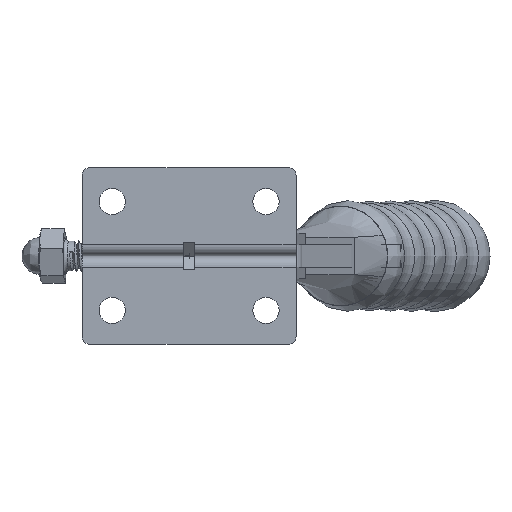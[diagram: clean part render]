
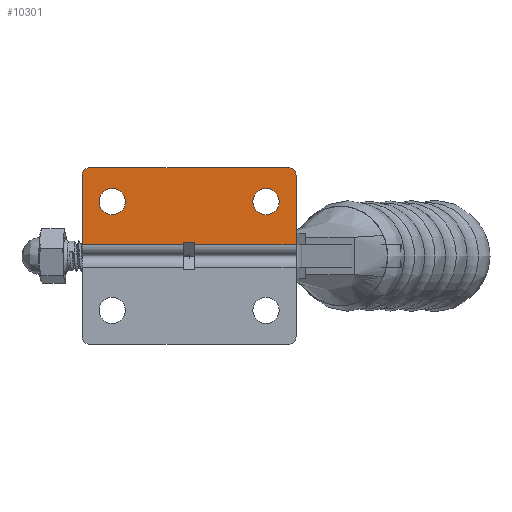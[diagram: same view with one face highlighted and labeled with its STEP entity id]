
A CAD part, front view. The second image highlights one B-rep face of the part: STEP entity #10301.
In plain terms, the highlighted planar face has unit normal (0, -1, 0).
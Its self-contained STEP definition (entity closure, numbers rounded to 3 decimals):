
#793=FACE_BOUND('',#1820,.T.);
#794=FACE_BOUND('',#1821,.T.);
#863=CIRCLE('',#11076,3.5);
#864=CIRCLE('',#11077,3.5);
#867=CIRCLE('',#11081,3.5);
#868=CIRCLE('',#11082,3.5);
#879=CIRCLE('',#11097,2.);
#880=CIRCLE('',#11098,2.);
#1244=FACE_OUTER_BOUND('',#1819,.T.);
#1819=EDGE_LOOP('',(#6900,#6901,#6902,#6903,#6904,#6905,#6906,#6907,#6908,
#6909));
#1820=EDGE_LOOP('',(#6910,#6911));
#1821=EDGE_LOOP('',(#6912,#6913));
#2468=LINE('',#14015,#3333);
#2469=LINE('',#14017,#3334);
#2470=LINE('',#14019,#3335);
#2471=LINE('',#14021,#3336);
#2472=LINE('',#14023,#3337);
#2473=LINE('',#14025,#3338);
#2474=LINE('',#14029,#3339);
#2475=LINE('',#14032,#3340);
#3333=VECTOR('',#11816,1000.);
#3334=VECTOR('',#11817,1000.);
#3335=VECTOR('',#11818,1000.);
#3336=VECTOR('',#11819,1000.);
#3337=VECTOR('',#11820,1000.);
#3338=VECTOR('',#11821,1000.);
#3339=VECTOR('',#11824,1000.);
#3340=VECTOR('',#11827,1000.);
#4193=VERTEX_POINT('',#13968);
#4194=VERTEX_POINT('',#13970);
#4197=VERTEX_POINT('',#13978);
#4198=VERTEX_POINT('',#13980);
#4211=VERTEX_POINT('',#14013);
#4212=VERTEX_POINT('',#14014);
#4213=VERTEX_POINT('',#14016);
#4214=VERTEX_POINT('',#14018);
#4215=VERTEX_POINT('',#14020);
#4216=VERTEX_POINT('',#14022);
#4217=VERTEX_POINT('',#14024);
#4218=VERTEX_POINT('',#14026);
#4219=VERTEX_POINT('',#14028);
#4220=VERTEX_POINT('',#14030);
#5272=EDGE_CURVE('',#4193,#4194,#863,.T.);
#5273=EDGE_CURVE('',#4194,#4193,#864,.T.);
#5277=EDGE_CURVE('',#4197,#4198,#867,.T.);
#5278=EDGE_CURVE('',#4198,#4197,#868,.T.);
#5293=EDGE_CURVE('',#4211,#4212,#2468,.T.);
#5294=EDGE_CURVE('',#4213,#4212,#2469,.T.);
#5295=EDGE_CURVE('',#4213,#4214,#2470,.T.);
#5296=EDGE_CURVE('',#4214,#4215,#2471,.T.);
#5297=EDGE_CURVE('',#4215,#4216,#2472,.T.);
#5298=EDGE_CURVE('',#4216,#4217,#2473,.T.);
#5299=EDGE_CURVE('',#4217,#4218,#879,.T.);
#5300=EDGE_CURVE('',#4218,#4219,#2474,.T.);
#5301=EDGE_CURVE('',#4219,#4220,#880,.T.);
#5302=EDGE_CURVE('',#4220,#4211,#2475,.T.);
#6900=ORIENTED_EDGE('',*,*,#5293,.T.);
#6901=ORIENTED_EDGE('',*,*,#5294,.F.);
#6902=ORIENTED_EDGE('',*,*,#5295,.T.);
#6903=ORIENTED_EDGE('',*,*,#5296,.T.);
#6904=ORIENTED_EDGE('',*,*,#5297,.T.);
#6905=ORIENTED_EDGE('',*,*,#5298,.T.);
#6906=ORIENTED_EDGE('',*,*,#5299,.T.);
#6907=ORIENTED_EDGE('',*,*,#5300,.T.);
#6908=ORIENTED_EDGE('',*,*,#5301,.T.);
#6909=ORIENTED_EDGE('',*,*,#5302,.T.);
#6910=ORIENTED_EDGE('',*,*,#5273,.F.);
#6911=ORIENTED_EDGE('',*,*,#5272,.F.);
#6912=ORIENTED_EDGE('',*,*,#5278,.F.);
#6913=ORIENTED_EDGE('',*,*,#5277,.F.);
#10043=PLANE('',#11096);
#10301=ADVANCED_FACE('',(#1244,#793,#794),#10043,.T.);
#11076=AXIS2_PLACEMENT_3D('',#13971,#11769,#11770);
#11077=AXIS2_PLACEMENT_3D('',#13972,#11771,#11772);
#11081=AXIS2_PLACEMENT_3D('',#13981,#11780,#11781);
#11082=AXIS2_PLACEMENT_3D('',#13982,#11782,#11783);
#11096=AXIS2_PLACEMENT_3D('',#14012,#11814,#11815);
#11097=AXIS2_PLACEMENT_3D('',#14027,#11822,#11823);
#11098=AXIS2_PLACEMENT_3D('',#14031,#11825,#11826);
#11769=DIRECTION('center_axis',(0.,-1.,0.));
#11770=DIRECTION('ref_axis',(0.,0.,1.));
#11771=DIRECTION('center_axis',(0.,-1.,0.));
#11772=DIRECTION('ref_axis',(0.,0.,1.));
#11780=DIRECTION('center_axis',(0.,-1.,0.));
#11781=DIRECTION('ref_axis',(0.,0.,-1.));
#11782=DIRECTION('center_axis',(0.,-1.,0.));
#11783=DIRECTION('ref_axis',(0.,0.,-1.));
#11814=DIRECTION('center_axis',(0.,-1.,0.));
#11815=DIRECTION('ref_axis',(0.,0.,-1.));
#11816=DIRECTION('',(1.,0.,0.));
#11817=DIRECTION('',(0.,0.,-1.));
#11818=DIRECTION('',(1.,0.,0.));
#11819=DIRECTION('',(0.,0.,-1.));
#11820=DIRECTION('',(1.,0.,0.));
#11821=DIRECTION('',(0.,0.,1.));
#11822=DIRECTION('center_axis',(0.,-1.,0.));
#11823=DIRECTION('ref_axis',(0.,0.,-1.));
#11824=DIRECTION('',(-1.,0.,0.));
#11825=DIRECTION('center_axis',(0.,-1.,0.));
#11826=DIRECTION('ref_axis',(0.,0.,-1.));
#11827=DIRECTION('',(0.,0.,-1.));
#13968=CARTESIAN_POINT('',(8.,0.,18.));
#13970=CARTESIAN_POINT('',(8.,0.,11.));
#13971=CARTESIAN_POINT('Origin',(8.,0.,14.5));
#13972=CARTESIAN_POINT('Origin',(8.,0.,14.5));
#13978=CARTESIAN_POINT('',(49.,0.,18.));
#13980=CARTESIAN_POINT('',(49.,0.,11.));
#13981=CARTESIAN_POINT('Origin',(49.,0.,14.5));
#13982=CARTESIAN_POINT('Origin',(49.,0.,14.5));
#14012=CARTESIAN_POINT('Origin',(2.,0.,21.5));
#14013=CARTESIAN_POINT('',(0.,0.,3.));
#14014=CARTESIAN_POINT('',(27.,0.,3.));
#14015=CARTESIAN_POINT('',(57.,0.,3.));
#14016=CARTESIAN_POINT('',(27.,0.,3.5));
#14017=CARTESIAN_POINT('',(27.,0.,0.));
#14018=CARTESIAN_POINT('',(30.,0.,3.5));
#14019=CARTESIAN_POINT('',(27.,0.,3.5));
#14020=CARTESIAN_POINT('',(30.,0.,3.));
#14021=CARTESIAN_POINT('',(30.,0.,0.));
#14022=CARTESIAN_POINT('',(57.,0.,3.));
#14023=CARTESIAN_POINT('',(57.,0.,3.));
#14024=CARTESIAN_POINT('',(57.,0.,21.5));
#14025=CARTESIAN_POINT('',(57.,0.,21.5));
#14026=CARTESIAN_POINT('',(55.,0.,23.5));
#14027=CARTESIAN_POINT('Origin',(55.,0.,21.5));
#14028=CARTESIAN_POINT('',(2.,0.,23.5));
#14029=CARTESIAN_POINT('',(55.,0.,23.5));
#14030=CARTESIAN_POINT('',(0.,0.,21.5));
#14031=CARTESIAN_POINT('Origin',(2.,0.,21.5));
#14032=CARTESIAN_POINT('',(0.,0.,0.));
